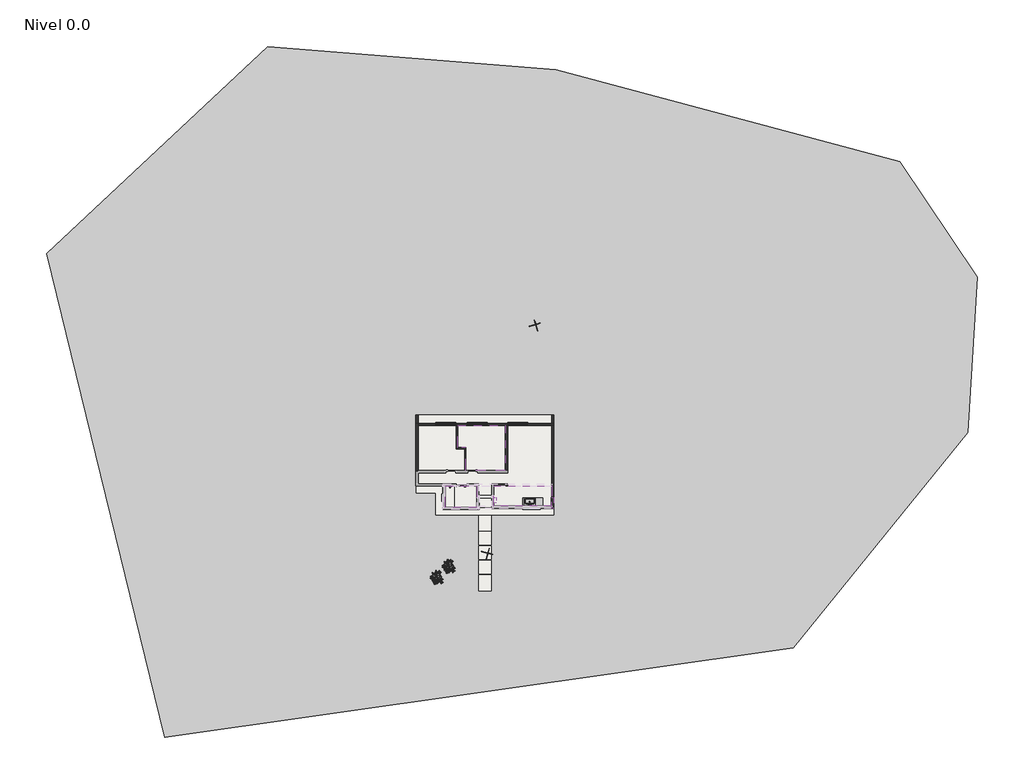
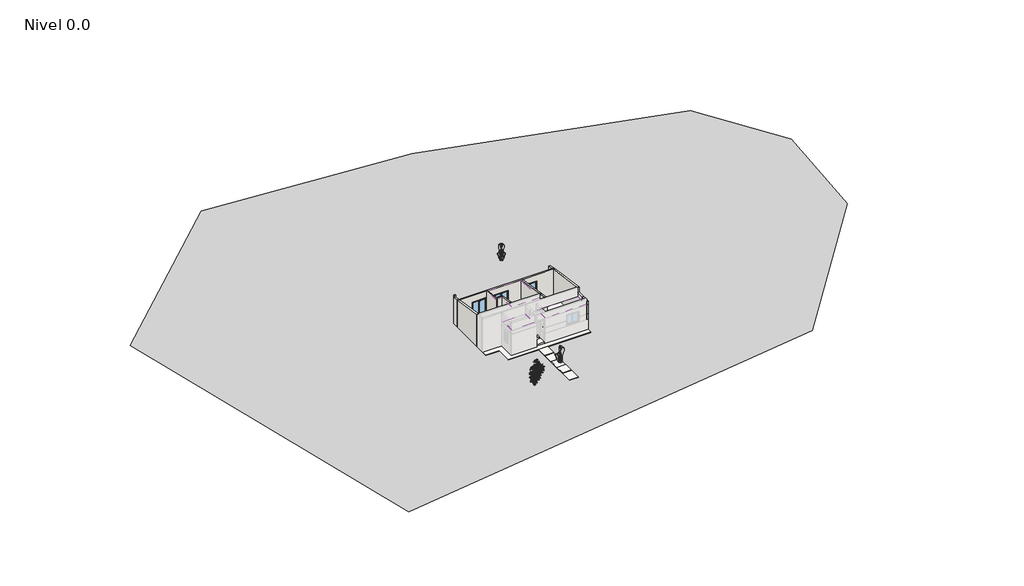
# One storey, part 2 of 2: 14 walls, 7 proxies, 6 slabs, 6 windows, 3 coverings, 2 flow terminals, 2 furniture elements, 2 geographic elements.
"""IFC4 building model written with IfcOpenShell, lengths in millimetres."""

from ifc_helpers import new_model, si_unit, frame, origin, place, context, project, spatial, polyline, outline, extrude, faceted_brep, triangles, transform, mapped, element, save
from components import people_01_multiple_views_persona_01_vistas_multiples_3530_4a2755cf, flow_terminal_b83d6339, m_sink_kitchen_single_760_x_535mm_74321b3d, furniture_f16aef51, m_counter_top_w_sink_d17fd10d, bamboo_enscape_assetdefinition_bamboo_5_6e08fe5f, window_a6007829, pv1_efd1b192

model = new_model("IFC4")

# Units and contexts
model_context = context("Model", 3, world=origin())
ifc_project = project(units=[si_unit("LENGTHUNIT", "METRE", prefix="MILLI")], contexts=[model_context])

# Site, building, storey
site = spatial("IfcSite", under=ifc_project)
building = spatial("IfcBuilding", under=site)
storey = spatial("IfcBuildingStorey", under=building, Name="Nivel 0.0", Elevation=0.0)

# Proxies
placement = place(None, origin())
element("IfcBuildingElementProxy", 1, Name="Building Element Proxy", at=placement, inside=storey, context=model_context, shape_type="Tessellation", body=[
    triangles([(-19674.3339844, 29872.3603455, -250.0000019), (25881.25047, 21582.8779541, -250.0000019), (30779.1770874, 2036.0069744, -250.0000019), (-21424.1946167, -17154.7459167, -250.0000019), (1065.6719439, 28209.1665161, -250.0000019), (31467.8652832, 13232.2760376, -250.0000019), (18194.9312622, -13492.9566376, -250.0000019), (-27094.4717651, -19950.0590149, -250.0000019), (-35614.2610291, 14936.2336578, -250.0000019)], [[8, 4, 9], [4, 8, 7], [1, 9, 4], [4, 5, 1], [7, 3, 2], [7, 2, 5], [2, 3, 6], [7, 5, 4]], closed=False),
])
element("IfcBuildingElementProxy", 2, Name="Building Element Proxy", at=placement, inside=storey, context=model_context, shape_type="Tessellation", body=[
    triangles([(-8850.4684982, -1659.8934494, -100.0000008), (-3401.8967125, -1659.8934494, -100.0000008), (-3421.4077309, 2538.120076, -100.0000008), (-8850.4684982, 2538.120076, -100.0000008), (799.5316481, -1669.6655273, -100.0000008), (799.5316481, 2538.120076, -100.0000008)], [[4, 1, 3], [3, 1, 2], [2, 6, 3], [2, 5, 6], [5, 2, 1]], closed=False),
])
element("IfcBuildingElementProxy", 3, Name="Building Element Proxy", at=placement, inside=storey, context=model_context, shape_type="Tessellation", body=[
    triangles([(779.0860937, -3263.3801674, -100.0000008), (799.5316481, -1690.8667042, -100.0000008), (-3401.8967125, -1658.8933651, -100.0000008), (-3374.1844505, -3228.7064117, -100.0000008), (-4452.3965446, -3265.446611, -100.0000008), (-4432.6800156, -1666.787796, -100.0000008), (-4452.3965446, -1658.8933651, -100.0000008)], [[7, 5, 6], [6, 5, 4], [7, 6, 3], [4, 1, 2], [1, 4, 5], [2, 3, 4], [4, 3, 6]], closed=False),
])
element("IfcBuildingElementProxy", 4, Name="Building Element Proxy", at=placement, inside=storey, context=model_context, shape_type="Tessellation", body=[
    triangles([(-6902.3967087, -3362.879908, -100.0000008), (-6902.3967087, -1659.8934494, -100.0000008), (-4602.3966911, -1658.8933651, -100.0000008), (-4602.3966911, -3362.879908, -100.0000008)], [[2, 1, 4], [4, 3, 2]], closed=False),
])
people_01_multiple_views_persona_01_vistas_multiples_3530_shape = people_01_multiple_views_persona_01_vistas_multiples_3530_4a2755cf(model_context)
element("IfcBuildingElementProxy", 5, Name="People_01_Multiple_views_persona_01_Vistas_multiples_3530 : People_01_Multiple_views_persona_01_Vistas_multiples_3530", ObjectType="People_01_Multiple_views_persona_01_Vistas_multiples_3530 : People_01_Multiple_views_persona_01_Vistas_multiples_3530", at=placement, inside=storey, context=model_context, shape_type="MappedRepresentation", body=[
    mapped(people_01_multiple_views_persona_01_vistas_multiples_3530_shape, transform((-359.6740839, 9826.7475097, -240.1879487), x_axis=(0.9612616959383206, 0.27563735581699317, 0.0), y_axis=(-0.27563735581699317, 0.9612616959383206, 0.0), z_axis=(0.0, 0.0, 1.0))),
])
element("IfcBuildingElementProxy", 6, Name="People_01_Multiple_views_persona_01_Vistas_multiples_3530 : People_01_Multiple_views_persona_01_Vistas_multiples_3530", ObjectType="People_01_Multiple_views_persona_01_Vistas_multiples_3530 : People_01_Multiple_views_persona_01_Vistas_multiples_3530", at=placement, inside=storey, context=model_context, shape_type="MappedRepresentation", body=[
    mapped(people_01_multiple_views_persona_01_vistas_multiples_3530_shape, transform((-3810.0993088, -6666.0666058, -175.816385), x_axis=(0.9659258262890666, -0.25881904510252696, 0.0), y_axis=(0.25881904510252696, 0.9659258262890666, 0.0), z_axis=(0.0, 0.0, 1.0))),
])
element("IfcBuildingElementProxy", 7, Name="Slab Edge", ObjectType="Slab Edge", at=placement, inside=storey, context=model_context, shape_type="Brep", body=[
    faceted_brep([(-8953.085471, 2649.2146735, -175.816385), (-8953.085471, 2649.2146735, -475.816385), (-8953.085471, -1717.0487, -475.816385), (-8953.085471, -1717.0487, -175.816385), (-8353.085471, 2049.2146735, -175.816385), (-8353.085471, -1117.0487, -175.816385), (-8653.085471, 2349.2146735, -475.816385), (-8653.085471, -1417.0487, -475.816385), (894.914529, 2649.2146735, -175.816385), (894.914529, 2649.2146735, -475.816385), (294.914529, 2049.2146735, -175.816385), (594.914529, 2349.2146735, -475.816385), (894.914529, -3375.7853265, -175.816385), (894.914529, -3375.7853265, -475.816385), (294.914529, -2775.7853265, -175.816385), (594.914529, -3075.7853265, -475.816385), (-4481.0136856, -3375.7853265, -175.816385), (-4481.0136856, -3375.7853265, -475.816385), (-5081.0136856, -2775.7853265, -175.816385), (-4781.0136856, -3075.7853265, -475.816385), (-4481.0136856, -3480.7853265, -175.816385), (-4481.0136856, -3480.7853265, -475.816385), (-5081.0136856, -2880.7853265, -175.816385), (-4781.0136856, -3180.7853265, -475.816385), (-7016.0136856, -3480.7853265, -175.816385), (-7016.0136856, -3480.7853265, -475.816385), (-6416.0136856, -2880.7853265, -175.816385), (-6716.0136856, -3180.7853265, -475.816385), (-7016.0136856, -1717.0487, -175.816385), (-7016.0136856, -1717.0487, -475.816385), (-6416.0136856, -1117.0487, -175.816385), (-6716.0136856, -1417.0487, -475.816385)], [[[0, 1, 2, 3]], [[4, 0, 3, 5]], [[6, 4, 5, 7]], [[1, 6, 7, 2]], [[8, 9, 1, 0]], [[10, 8, 0, 4]], [[11, 10, 4, 6]], [[9, 11, 6, 1]], [[12, 13, 9, 8]], [[14, 12, 8, 10]], [[15, 14, 10, 11]], [[13, 15, 11, 9]], [[16, 17, 13, 12]], [[18, 16, 12, 14]], [[19, 18, 14, 15]], [[17, 19, 15, 13]], [[20, 21, 17, 16]], [[22, 20, 16, 18]], [[23, 22, 18, 19]], [[21, 23, 19, 17]], [[24, 25, 21, 20]], [[26, 24, 20, 22]], [[27, 26, 22, 23]], [[25, 27, 23, 21]], [[28, 29, 25, 24]], [[30, 28, 24, 26]], [[31, 30, 26, 27]], [[29, 31, 27, 25]], [[3, 2, 29, 28]], [[5, 3, 28, 30]], [[7, 5, 30, 31]], [[2, 7, 31, 29]]]),
])

# Coverings
element("IfcCovering", 8, ObjectType="1282-Aplicado de yeso", at=placement, inside=storey, context=model_context, shape_type="SweptSolid", body=[
    extrude(outline(polyline([(790.914529, -1826.7987), (790.914529, -3262.7853265), (-3392.5136856, -3262.7853265), (-3392.5136856, -1826.7987), (790.914529, -1826.7987)])), frame((0.0, 0.0, 2450.0), z_axis=(0.0, 0.0, 1.0), x_axis=(1.0, 0.0, 0.0)), (0.0, 0.0, 1.0), 20.0),
])
element("IfcCovering", 9, ObjectType="1282-Aplicado de yeso", at=placement, inside=storey, context=model_context, shape_type="SweptSolid", body=[
    extrude(outline(polyline([(-4603.0136856, -3363.2853265), (-6894.0136856, -3363.2853265), (-6894.0136856, -1816.0487), (-4603.0136856, -1816.0487), (-4603.0136856, -3363.2853265)])), frame((0.0, 0.0, 2450.0), z_axis=(0.0, 0.0, 1.0), x_axis=(1.0, 0.0, 0.0)), (0.0, 0.0, 1.0), 20.0),
])
element("IfcCovering", 10, ObjectType="1282-Aplicado de yeso", at=placement, inside=storey, context=model_context, shape_type="Brep", body=[
    faceted_brep([(-5389.835595, 945.964389, 3058.7991933), (-5389.835595, -704.9721748, 3306.4396778), (-2543.2184884, -704.9721748, 3306.4396778), (-2543.2184884, 2553.7146735, 2817.6366506), (-5987.335595, 2553.7146735, 2817.6366506), (-5987.335595, 945.964389, 3058.7991933), (-5389.835595, 945.964389, 3038.5754448), (-5987.335595, 945.964389, 3038.5754448), (-5987.335595, 2553.7146735, 2797.4129022), (-2543.2184884, 2553.7146735, 2797.4129022), (-2543.2184884, -704.9721748, 3286.2159294), (-5389.835595, -704.9721748, 3286.2159294)], [[[0, 1, 2, 3, 4, 5]], [[6, 7, 8, 9, 10, 11]], [[1, 0, 6, 11]], [[2, 1, 11, 10]], [[3, 2, 10, 9]], [[4, 3, 9, 8]], [[5, 4, 8, 7]], [[0, 5, 7, 6]]]),
])

# Flow terminals
flow_terminal_shape = flow_terminal_b83d6339(model_context)
element("IfcFlowTerminal", 11, ObjectType="Cdo Ducha : Cdo Ducha", at=placement, inside=storey, context=model_context, shape_type="MappedRepresentation", body=[
    mapped(flow_terminal_shape, transform((-6536.0136856, -1773.0487, 0.0), x_axis=(-1.0, 0.0, 0.0), y_axis=(0.0, -1.0, 0.0), z_axis=(0.0, 0.0, 1.0))),
])
m_sink_kitchen_single_760_x_535mm_shape = m_sink_kitchen_single_760_x_535mm_74321b3d(model_context)
element("IfcFlowTerminal", 12, ObjectType="M_Sink Kitchen-Single : 760 x 535mm", at=placement, inside=storey, context=model_context, shape_type="MappedRepresentation", body=[
    mapped(m_sink_kitchen_single_760_x_535mm_shape, transform((-779.7782435, -2951.3399254, 0.0), x_axis=(-1.0, 0.0, 0.0), y_axis=(0.0, -1.0, 0.0), z_axis=(0.0, 0.0, 1.0))),
])

# Furniture
furniture_shape = furniture_f16aef51(model_context)
element("IfcFurniture", 13, ObjectType="CALEFON : EH-Esquentador a Gáz", at=placement, inside=storey, context=model_context, shape_type="MappedRepresentation", body=[
    mapped(furniture_shape, transform((-3394.0136856, -2852.9930723, 1200.0), x_axis=(0.0, -1.0, 0.0), y_axis=(1.0, 0.0, 0.0), z_axis=(0.0, 0.0, 1.0))),
])
m_counter_top_w_sink_shape = m_counter_top_w_sink_d17fd10d(model_context)
element("IfcFurniture", 14, ObjectType="M_Counter Top w Sink : Mesada 1.45m", at=placement, inside=storey, context=model_context, shape_type="MappedRepresentation", body=[
    mapped(m_counter_top_w_sink_shape, transform((-1042.4927432, -3264.2853265, 0.0), x_axis=(-1.0, 0.0, 0.0), y_axis=(0.0, -1.0, 0.0), z_axis=(0.0, 0.0, 1.0))),
])

# Geographic elements
bamboo_enscape_assetdefinition_bamboo_5_shape = bamboo_enscape_assetdefinition_bamboo_5_6e08fe5f(model_context)
element("IfcGeographicElement", 15, ObjectType="Bamboo : Enscape AssetDefinition - Bamboo 5", at=placement, inside=storey, context=model_context, shape_type="MappedRepresentation", body=[
    mapped(bamboo_enscape_assetdefinition_bamboo_5_shape, transform((-7476.0136856, -8440.7853265, -400.0), x_axis=(1.0, 0.0, 0.0), y_axis=(0.0, 1.0, 0.0), z_axis=(0.0, 0.0, 1.0))),
])
element("IfcGeographicElement", 16, ObjectType="Bamboo : Enscape AssetDefinition - Bamboo 5", at=placement, inside=storey, context=model_context, shape_type="MappedRepresentation", body=[
    mapped(bamboo_enscape_assetdefinition_bamboo_5_shape, transform((-6621.0136856, -7640.7853265, -400.0), x_axis=(1.0, 0.0, 0.0), y_axis=(0.0, 1.0, 0.0), z_axis=(0.0, 0.0, 1.0))),
])

# Slabs
element("IfcSlab", 17, ObjectType="Vereda de acceso", at=placement, inside=storey, context=model_context, shape_type="SweptSolid", body=[
    extrude(outline(polyline([(-3552.8965789, -3956.5789295), (-3552.8965789, -5038.2848008), (-4452.3965789, -5038.2848008), (-4452.3965789, -3956.5789295), (-3552.8965789, -3956.5789295)])), frame((0.0, 0.0, -295.816385), z_axis=(0.0, 0.0, 1.0), x_axis=(1.0, 0.0, 0.0)), (0.0, 0.0, 1.0), 120.0),
    extrude(outline(polyline([(-3552.8965789, -5080.8962998), (-3552.8965789, -6082.6021711), (-4452.3965789, -6082.6021711), (-4452.3965789, -5080.8962998), (-3552.8965789, -5080.8962998)])), frame((0.0, 0.0, -295.816385), z_axis=(0.0, 0.0, 1.0), x_axis=(1.0, 0.0, 0.0)), (0.0, 0.0, 1.0), 120.0),
    extrude(outline(polyline([(-3552.8965789, -6125.2136701), (-3552.8965789, -7126.9195414), (-4452.3965789, -7126.9195414), (-4452.3965789, -6125.2136701), (-3552.8965789, -6125.2136701)])), frame((0.0, 0.0, -295.816385), z_axis=(0.0, 0.0, 1.0), x_axis=(1.0, 0.0, 0.0)), (0.0, 0.0, 1.0), 120.0),
    extrude(outline(polyline([(-3552.8965789, -7169.5310404), (-3552.8965789, -8171.2369118), (-4452.3965789, -8171.2369118), (-4452.3965789, -7169.5310404), (-3552.8965789, -7169.5310404)])), frame((0.0, 0.0, -295.816385), z_axis=(0.0, 0.0, 1.0), x_axis=(1.0, 0.0, 0.0)), (0.0, 0.0, 1.0), 120.0),
    extrude(outline(polyline([(-3552.8965789, -8213.8484108), (-3552.8965789, -9375.5542821), (-4452.3965789, -9375.5542821), (-4452.3965789, -8213.8484108), (-3552.8965789, -8213.8484108)])), frame((0.0, 0.0, -295.816385), z_axis=(0.0, 0.0, 1.0), x_axis=(1.0, 0.0, 0.0)), (0.0, 0.0, 1.0), 120.0),
])
element("IfcSlab", 18, ObjectType="Platea de fundación", at=placement, inside=storey, context=model_context, shape_type="Brep", body=[
    faceted_brep([(-8953.085471, -1717.0487, -175.0), (-8953.085471, -1664.5487, -175.0), (-8953.085471, -782.2221748, -175.0), (-8953.085471, 2649.2146735, -175.0), (-8842.585471, 2649.2146735, -175.0), (894.914529, 2649.2146735, -175.0), (894.914529, 2538.7146735, -175.0), (894.914529, -2651.7853265, -175.0), (894.914529, -3265.2853265, -175.0), (894.914529, -3375.7853265, -175.0), (-3548.0136856, -3375.7853265, -175.0), (-4439.0136856, -3375.7853265, -175.0), (-4481.0136856, -3375.7853265, -175.0), (-4481.0136856, -3480.7853265, -175.0), (-7016.0136856, -3480.7853265, -175.0), (-7016.0136856, -3358.7853265, -175.0), (-7016.0136856, -1816.0487, -175.0), (-7016.0136856, -1717.0487, -175.0), (-6196.1040625, -3363.5353265, -175.0), (-6196.1040625, -3358.7853265, -175.0), (-6196.1040625, -1816.0487, -175.0), (-6894.0136856, -1816.0487, -175.0), (-6898.7636856, -1816.0487, -175.0), (-6898.7636856, -3358.7853265, -175.0), (-6898.7636856, -3363.5353265, -175.0), (-8953.085471, -1717.0487, -25.0), (-7016.0136856, -1717.0487, -25.0), (-7016.0136856, -1816.0487, -25.0), (-7016.0136856, -3358.7853265, -25.0), (-7016.0136856, -3480.7853265, -25.0), (-4481.0136856, -3480.7853265, -25.0), (-4481.0136856, -3375.7853265, -25.0), (-4439.0136856, -3375.7853265, -25.0), (-3548.0136856, -3375.7853265, -25.0), (894.914529, -3375.7853265, -25.0), (894.914529, -3265.2853265, -25.0), (894.914529, -2651.7853265, -25.0), (894.914529, 2538.7146735, -25.0), (894.914529, 2649.2146735, -25.0), (-8842.585471, 2649.2146735, -25.0), (-8953.085471, 2649.2146735, -25.0), (-8953.085471, -782.2221748, -25.0), (-8953.085471, -1664.5487, -25.0), (-6196.1040625, -3363.5353265, -25.0), (-6898.7636856, -3363.5353265, -25.0), (-6898.7636856, -3358.7853265, -25.0), (-6898.7636856, -1816.0487, -25.0), (-6196.1040625, -1816.0487, -25.0), (-6196.1040625, -3358.7853265, -25.0), (-6196.1040625, -3363.5353265, -75.816385), (-6196.1040625, -3363.5353265, -50.816385), (-6898.7636856, -3363.5353265, -50.816385), (-6898.7636856, -3363.5353265, -75.816385)], [[[0, 1, 2, 3, 4, 5, 6, 7, 8, 9, 10, 11, 12, 13, 14, 15, 16, 17], [18, 19, 20, 21, 22, 23, 24]], [[25, 26, 27, 28, 29, 30, 31, 32, 33, 34, 35, 36, 37, 38, 39, 40, 41, 42], [43, 44, 45, 46, 47, 48]], [[3, 2, 1, 0, 25, 42, 41, 40]], [[5, 4, 3, 40, 39, 38]], [[9, 8, 7, 6, 5, 38, 37, 36, 35, 34]], [[12, 11, 10, 9, 34, 33, 32, 31]], [[13, 12, 31, 30]], [[14, 13, 30, 29]], [[17, 16, 15, 14, 29, 28, 27, 26]], [[0, 17, 26, 25]], [[20, 19, 18, 49, 50, 43, 48, 47]], [[22, 21, 20, 47, 46]], [[24, 23, 22, 46, 45, 44, 51, 52]], [[18, 24, 52, 51, 44, 43, 50, 49]]]),
])
element("IfcSlab", 19, ObjectType="Veredín perimetral", at=placement, inside=storey, context=model_context, shape_type="SweptSolid", body=[
    extrude(outline(polyline([(-7030.5136856, -1794.7987), (-7030.5136856, -3495.2853265), (-4466.5136856, -3495.2853265), (-4466.5136856, -3396.2853265), (922.914529, -3396.2853265), (922.914529, -3914.2853258), (-7558.5136856, -3914.2853258), (-7558.5136856, -2310.2987), (-8973.585471, -2310.2987), (-8973.585471, -1794.7987), (-7030.5136856, -1794.7987)])), frame((0.0, 0.0, -295.0), z_axis=(0.0, 0.0, 1.0), x_axis=(1.0, 0.0, 0.0)), (0.0, 0.0, 1.0), 120.0),
    extrude(outline(polyline([(922.914529, 3320.8520792), (922.914529, 2669.7146735), (-8973.585471, 2669.7146735), (-8973.585471, 3320.8520792), (922.914529, 3320.8520792)])), frame((0.0, 0.0, -295.0), z_axis=(0.0, 0.0, 1.0), x_axis=(1.0, 0.0, 0.0)), (0.0, 0.0, 1.0), 120.0),
])
element("IfcSlab", 20, ObjectType="Piso Cerámico", at=placement, inside=storey, context=model_context, shape_type="SweptSolid", body=[
    extrude(outline(polyline([(-3422.7636856, -3258.0353265), (-3422.7636856, -1826.7987), (-2388.7184884, -1826.7987), (-2388.7184884, -1656.7987), (-3555.2636856, -1656.7987), (-3555.2636856, -2519.4025284), (-3567.5136856, -2519.4025284), (-3567.5136856, -2665.9025284), (-4417.5136856, -2665.9025284), (-4417.5136856, -2519.4025284), (-4438.5136856, -2519.4025284), (-4438.5136856, -1679.5487), (-5319.8471251, -1679.5487), (-5319.8471251, -1816.0487), (-4596.1040625, -1816.0487), (-4596.1040625, -3363.5353265), (-6196.1040625, -3363.5353265), (-6196.1040625, -1842.7987001), (-6099.8471251, -1842.7987001), (-6099.8471251, -1679.5487), (-8842.585471, -1679.5487), (-8842.585471, -859.4721748), (-6887.085595, -859.4721748), (-6887.085595, -704.9721748), (-8842.585471, -704.9721748), (-8842.585471, 2537.7146735), (-6081.835595, 2537.7146735), (-6081.835595, 851.464389), (-5484.335595, 851.464389), (-5484.335595, -704.9721748), (-6107.085595, -704.9721748), (-6107.085595, -859.4721748), (-5287.085595, -859.4721748), (-5287.085595, -704.9721748), (-5389.835595, -704.9721748), (-5389.835595, 945.964389), (-5987.335595, 945.964389), (-5987.335595, 2537.7146735), (-2543.2184884, 2537.7146735), (-2543.2184884, -704.9721748), (-4507.085595, -704.9721748), (-4507.085595, -859.4721748), (-2388.7184884, -859.4721748), (-2388.7184884, 2537.7146735), (784.414529, 2537.7146735), (784.414529, -3258.0353265), (-3422.7636856, -3258.0353265)])), frame((0.0, 0.0, -25.0), z_axis=(0.0, 0.0, 1.0), x_axis=(1.0, 0.0, 0.0)), (0.0, 0.0, 1.0), 25.0),
])
element("IfcSlab", 21, ObjectType="Platea de fundación, receptaculo baño", at=placement, inside=storey, context=model_context, shape_type="SweptSolid", body=[
    extrude(outline(polyline([(-6196.1040625, -3363.5353265), (-6898.7636856, -3363.5353265), (-6898.7636856, -1816.0487), (-6196.1040625, -1816.0487), (-6196.1040625, -3363.5353265)])), frame((0.0, 0.0, -175.816385), z_axis=(0.0, 0.0, 1.0), x_axis=(1.0, 0.0, 0.0)), (0.0, 0.0, 1.0), 100.0),
])
element("IfcSlab", 22, ObjectType="Piso Cerámico", at=placement, inside=storey, context=model_context, shape_type="Brep", body=[
    faceted_brep([(-6196.1040625, -3363.5353265, -75.816385), (-6898.7636856, -3363.5353265, -75.816385), (-6898.7636856, -3358.7853265, -75.816385), (-6898.7636856, -1816.0487, -75.816385), (-6196.1040625, -1816.0487, -75.816385), (-6196.1040625, -3358.7853265, -75.816385), (-6196.1040625, -3363.5353265, -50.816385), (-6196.1040625, -3358.7853265, -50.816385), (-6196.1040625, -1816.0487, -50.816385), (-6898.7636856, -1816.0487, -50.816385), (-6898.7636856, -3358.7853265, -50.816385), (-6898.7636856, -3363.5353265, -50.816385)], [[[0, 1, 2, 3, 4, 5]], [[6, 7, 8, 9, 10, 11]], [[1, 0, 6, 11]], [[3, 2, 1, 11, 10, 9]], [[4, 3, 9, 8]], [[0, 5, 4, 8, 7, 6]]]),
])

# Walls
element("IfcWall", 23, ObjectType="Pe-NW-001", at=placement, inside=storey, context=model_context, shape_type="Brep", body=[
    faceted_brep([(-8995.585471, 3320.8520792, -175.816385), (-8995.585471, 2691.7146735, -175.816385), (-8995.585471, 2691.7146735, -175.0), (-8995.585471, 2691.7146735, 2791.0417259), (-8995.585471, 3304.1020792, 2699.183615), (-8995.585471, 3304.1020792, 2924.183615), (-8995.585471, 3320.8520792, 2924.183615), (-8843.085471, 3320.8520792, -175.816385), (-8843.085471, 3320.8520792, 2924.183615), (-8843.085471, 3304.1020792, 2924.183615), (-8843.085471, 3304.1020792, 2699.183615), (-8843.085471, 2691.7146735, 2791.0417259), (-8843.085471, 2691.7146735, -175.816385)], [[[0, 1, 2, 3, 4, 5, 6]], [[7, 8, 9, 10, 11, 12]], [[4, 3, 11, 10]], [[1, 0, 7, 12]], [[0, 6, 8, 7]], [[3, 2, 1, 12, 11]], [[6, 5, 9, 8]], [[9, 5, 4, 10]]]),
])
element("IfcWall", 24, ObjectType="Pe-NW-002", at=placement, inside=storey, context=model_context, shape_type="Brep", body=[
    faceted_brep([(937.414529, 2691.7146735, -175.0), (784.914529, 2691.7146735, -175.0), (-8842.585471, 2691.7146735, -175.0), (-8842.585471, 2691.7146735, 2791.0417259), (937.414529, 2691.7146735, 2791.0417259), (937.414529, 2691.7146735, 2782.1012413), (-6149.6368868, 2691.7146735, 2129.183615), (-7589.6368868, 2691.7146735, 2129.183615), (-7589.6368868, 2691.7146735, -0.816385), (-6149.6368868, 2691.7146735, -0.816385), (-3874.085471, 2691.7146735, -0.816385), (-3874.085471, 2691.7146735, 2129.183615), (-5314.085471, 2691.7146735, 2129.183615), (-5314.085471, 2691.7146735, -0.816385), (-932.085595, 2691.7146735, -0.816385), (-932.085595, 2691.7146735, 2129.183615), (-2372.085595, 2691.7146735, 2129.183615), (-2372.085595, 2691.7146735, -0.816385), (937.414529, 2538.7146735, 2813.9917259), (784.414529, 2538.7146735, 2813.9917259), (-2388.7184884, 2538.7146735, 2813.9917259), (-2543.2184884, 2538.7146735, 2813.9917259), (-5987.335595, 2538.7146735, 2813.9917259), (-6081.835595, 2538.7146735, 2813.9917259), (-8842.585471, 2538.7146735, 2813.9917259), (-8842.585471, 2538.7146735, -25.0), (784.414529, 2538.7146735, -25.0), (894.914529, 2538.7146735, -25.0), (894.914529, 2538.7146735, -175.0), (937.414529, 2538.7146735, -175.0), (-7589.6368868, 2538.7146735, 2129.183615), (-6149.6368868, 2538.7146735, 2129.183615), (-6149.6368868, 2538.7146735, -0.816385), (-7589.6368868, 2538.7146735, -0.816385), (-3874.085471, 2538.7146735, 2129.183615), (-3874.085471, 2538.7146735, -0.816385), (-5314.085471, 2538.7146735, -0.816385), (-5314.085471, 2538.7146735, 2129.183615), (-932.085595, 2538.7146735, 2129.183615), (-932.085595, 2538.7146735, -0.816385), (-2372.085595, 2538.7146735, -0.816385), (-2372.085595, 2538.7146735, 2129.183615), (894.914529, 2649.2146735, -175.0), (-8842.585471, 2649.2146735, -175.0), (-8842.585471, 2649.2146735, -25.0), (894.914529, 2649.2146735, -25.0)], [[[0, 1, 2, 3, 4, 5], [6, 7, 8, 9], [10, 11, 12, 13], [14, 15, 16, 17]], [[18, 19, 20, 21, 22, 23, 24, 25, 26, 27, 28, 29], [30, 31, 32, 33], [34, 35, 36, 37], [38, 39, 40, 41]], [[2, 1, 0, 29, 28, 42, 43]], [[8, 33, 32, 9]], [[35, 10, 13, 36]], [[39, 14, 17, 40]], [[4, 3, 24, 23, 22, 21, 20, 19, 18]], [[9, 32, 31, 6]], [[30, 7, 6, 31]], [[7, 30, 33, 8]], [[10, 35, 34, 11]], [[11, 34, 37, 12]], [[12, 37, 36, 13]], [[14, 39, 38, 15]], [[15, 38, 41, 16]], [[16, 41, 40, 17]], [[3, 2, 43, 44, 25, 24]], [[44, 45, 27, 26, 25]], [[42, 45, 44, 43]], [[45, 42, 28, 27]], [[29, 0, 5, 4, 18]]]),
])
element("IfcWall", 25, ObjectType="Pi-NW-050", at=placement, inside=storey, context=model_context, shape_type="Brep", body=[
    faceted_brep([(-6081.835595, 2538.7146735, 0.0), (-6081.835595, 851.464389, 0.0), (-6081.835595, 851.464389, 3067.0792686), (-6081.835595, 2538.7146735, 2813.9917259), (-5987.335595, 2538.7146735, 0.0), (-5987.335595, 2538.7146735, 2813.9917259), (-5987.335595, 945.964389, 3052.9042686), (-5987.335595, 851.464389, 3067.0792686), (-5987.335595, 851.464389, 0.0), (-5987.335595, 945.964389, 0.0)], [[[0, 1, 2, 3]], [[4, 5, 6, 7, 8, 9]], [[1, 0, 4, 9, 8]], [[3, 2, 7, 6, 5]], [[2, 1, 8, 7]], [[0, 3, 5, 4]]]),
])
element("IfcWall", 26, ObjectType="Pi-NW-050", at=placement, inside=storey, context=model_context, shape_type="Brep", body=[
    faceted_brep([(-5987.335595, 851.464389, 0.0), (-5484.335595, 851.464389, 0.0), (-5389.835595, 851.464389, 0.0), (-5389.835595, 851.464389, 3067.0792686), (-5484.335595, 851.464389, 3067.0792686), (-5987.335595, 851.464389, 3067.0792686), (-5987.335595, 945.964389, 0.0), (-5987.335595, 945.964389, 3052.9042686), (-5389.835595, 945.964389, 3052.9042686), (-5389.835595, 945.964389, 0.0)], [[[0, 1, 2, 3, 4, 5]], [[6, 7, 8, 9]], [[2, 1, 0, 6, 9]], [[5, 4, 3, 8, 7]], [[3, 2, 9, 8]], [[0, 5, 7, 6]]]),
])
element("IfcWall", 27, ObjectType="Pi-NW-050", at=placement, inside=storey, context=model_context, shape_type="SweptSolid", body=[
    extrude(outline(polyline([(851.464389, 0.0), (-704.9721748, 0.0), (-704.9721748, 3300.5447531), (851.464389, 3067.0792686), (851.464389, 0.0)])), frame((-5484.335595, 0.0, 0.0), z_axis=(1.0, 0.0, 0.0), x_axis=(0.0, 1.0, 0.0)), (0.0, 0.0, 1.0), 94.5),
])
element("IfcWall", 28, ObjectType="Pi-NW-054", at=placement, inside=storey, context=model_context, shape_type="SweptSolid", body=[
    extrude(outline(polyline([(2538.7146735, 2813.9917259), (2538.7146735, 0.0), (-704.9721748, 0.0), (-704.9721748, 2100.0), (-1652.1000845, 2100.0), (-1652.1000845, 0.0), (-1679.5487, 0.0), (-1679.5487, 3446.7312319), (2538.7146735, 2813.9917259)])), frame((-2543.2184884, 0.0, 0.0), z_axis=(1.0, 0.0, 0.0), x_axis=(0.0, 1.0, 0.0)), (0.0, 0.0, 1.0), 154.5),
])
element("IfcWall", 29, ObjectType="Pe-NW-002", at=placement, inside=storey, context=model_context, shape_type="Brep", body=[
    faceted_brep([(937.414529, -2651.7853265, -175.0), (937.414529, 2538.7146735, -175.0), (937.414529, 2538.7146735, 2813.9917259), (937.414529, -1832.0487, 3469.6062319), (937.414529, -1832.0487, 2925.0), (937.414529, -2651.7853265, 2925.0), (937.414529, -2651.7853265, 2525.0), (937.414529, -2651.7853265, 1525.0), (937.414529, -2651.7853265, 925.0), (784.414529, -2651.7853265, 2925.0), (784.414529, -1832.0487, 2925.0), (784.414529, -1832.0487, 3469.6062319), (784.414529, -1679.5487, 3446.7312319), (784.414529, 2538.7146735, 2813.9917259), (784.414529, 2538.7146735, -25.0), (784.414529, -2651.7853265, -25.0), (784.414529, -2651.7853265, 925.0), (784.414529, -2651.7853265, 1525.0), (784.414529, -2651.7853265, 2525.0), (894.914529, 2538.7146735, -25.0), (894.914529, -2651.7853265, -25.0), (894.914529, 2538.7146735, -175.0), (894.914529, -2651.7853265, -175.0), (784.914529, -2651.7853265, 2925.0)], [[[0, 1, 2, 3, 4, 5, 6, 7, 8]], [[9, 10, 11, 12, 13, 14, 15, 16, 17, 18]], [[19, 20, 15, 14]], [[20, 19, 21, 22]], [[1, 0, 22, 21]], [[5, 23, 9, 18, 17, 16, 15, 20, 22, 0, 8, 7, 6]], [[9, 23, 5, 4, 10]], [[10, 4, 3, 11]], [[3, 2, 13, 12, 11]], [[13, 2, 1, 21, 19, 14]]]),
])
element("IfcWall", 30, ObjectType="Pe-NW-003", at=placement, inside=storey, context=model_context, shape_type="Brep", body=[
    faceted_brep([(937.414529, -2651.7853265, 1525.0), (937.414529, -3418.2853265, 1525.0), (937.414529, -3418.2853265, 925.0), (937.414529, -3265.2853265, 925.0), (937.414529, -2651.7853265, 925.0), (772.914529, -2651.7853265, 1525.0), (772.914529, -2651.7853265, 925.0), (772.914529, -3253.7853265, 925.0), (772.914529, -3418.2853265, 925.0), (772.914529, -3418.2853265, 1525.0), (772.914529, -3253.7853265, 1525.0), (784.414529, -2651.7853265, 1525.0), (784.414529, -3418.2853265, 1525.0), (784.414529, -2651.7853265, 925.0)], [[[0, 1, 2, 3, 4]], [[5, 6, 7, 8, 9, 10]], [[1, 0, 11, 5, 10, 9, 12]], [[4, 3, 2, 8, 7, 6, 13]], [[0, 4, 13, 6, 5, 11]], [[2, 1, 12, 9, 8]]]),
])
element("IfcWall", 31, ObjectType="Pe-NW-002", at=placement, inside=storey, context=model_context, shape_type="Brep", body=[
    faceted_brep([(937.414529, -2651.7853265, 2525.0), (937.414529, -3418.2853265, 2525.0), (937.414529, -3418.2853265, 1525.0), (937.414529, -2651.7853265, 1525.0), (784.414529, -2651.7853265, 2525.0), (784.414529, -2651.7853265, 1525.0), (784.414529, -3265.2853265, 1525.0), (784.414529, -3418.2853265, 1525.0), (784.414529, -3418.2853265, 2525.0), (784.414529, -3265.2853265, 2525.0), (784.914529, -2651.7853265, 2525.0), (784.914529, -3418.2853265, 2525.0)], [[[0, 1, 2, 3]], [[4, 5, 6, 7, 8, 9]], [[1, 0, 10, 4, 9, 8, 11]], [[3, 2, 7, 6, 5]], [[0, 3, 5, 4, 10]], [[2, 1, 11, 8, 7]]]),
])
element("IfcWall", 32, ObjectType="Pe-NW-001", at=placement, inside=storey, context=model_context, shape_type="Brep", body=[
    faceted_brep([(937.414529, -2651.7853265, 2925.0), (937.414529, -3418.2853265, 2925.0), (937.414529, -3418.2853265, 2525.0), (937.414529, -2651.7853265, 2525.0), (784.914529, -2651.7853265, 2925.0), (784.914529, -2651.7853265, 2525.0), (784.914529, -3265.7853265, 2525.0), (784.914529, -3418.2853265, 2525.0), (784.914529, -3418.2853265, 2925.0)], [[[0, 1, 2, 3]], [[4, 5, 6, 7, 8]], [[1, 0, 4, 8]], [[3, 2, 7, 6, 5]], [[0, 3, 5, 4]], [[2, 1, 8, 7]]]),
])
element("IfcWall", 33, ObjectType="Pi-NW-053", at=placement, inside=storey, context=model_context, shape_type="SweptSolid", body=[
    extrude(outline(polyline([(-2380.9684884, -1816.0487), (-3383.5136856, -1816.0487), (-3383.5136856, -1679.5487), (-2380.9684884, -1679.5487), (-2380.9684884, -1816.0487)])), frame((0.0, 0.0, -175.0), z_axis=(0.0, 0.0, 1.0), x_axis=(1.0, 0.0, 0.0)), (0.0, 0.0, 1.0), 2652.1107105),
])
element("IfcWall", 34, ObjectType="Pe-NW-001", at=placement, inside=storey, context=model_context, shape_type="SweptSolid", body=[
    extrude(outline(polyline([(3320.8520792, 2699.183615), (3320.8520792, -175.0), (2691.7146735, -175.0), (2691.7146735, 2782.1012413), (3320.8520792, 2699.183615)])), frame((784.914529, 0.0, 0.0), z_axis=(1.0, 0.0, 0.0), x_axis=(0.0, 1.0, 0.0)), (0.0, 0.0, 1.0), 152.5),
])
element("IfcWall", 35, ObjectType="Pe-NW-002", at=placement, inside=storey, context=model_context, shape_type="Brep", body=[
    faceted_brep([(-8995.585471, 2691.7146735, -175.0), (-8995.585471, -782.2221748, -175.0), (-8995.585471, -782.2221748, 3312.1322531), (-8995.585471, 2691.7146735, 2791.0417259), (-8842.585471, 2691.7146735, 2791.0417259), (-8842.585471, 2538.7146735, 2813.9917259), (-8842.585471, -704.9721748, 3300.5447531), (-8842.585471, -782.2221748, 3312.1322531), (-8842.585471, -782.2221748, -25.0), (-8842.585471, 2538.7146735, -25.0), (-8842.585471, 2649.2146735, -25.0), (-8842.585471, 2649.2146735, -175.0), (-8842.585471, 2691.7146735, -175.0), (-8843.085471, 2691.7146735, 2791.0417259), (-8953.085471, 2649.2146735, -175.0), (-8953.085471, -782.2221748, -175.0), (-8953.085471, -782.2221748, -25.0), (-8953.085471, 2649.2146735, -25.0)], [[[0, 1, 2, 3]], [[4, 5, 6, 7, 8, 9, 10, 11, 12]], [[3, 2, 7, 6, 5, 4, 13]], [[1, 0, 12, 11, 14, 15]], [[12, 0, 3, 13, 4]], [[16, 17, 10, 9, 8]], [[14, 17, 16, 15]], [[17, 14, 11, 10]], [[7, 2, 1, 15, 16, 8]]]),
])
element("IfcWall", 36, ObjectType="Pe-NW-002", at=placement, inside=storey, context=model_context, shape_type="SweptSolid", body=[
    extrude(outline(polyline([(-175.0, 937.414529), (925.0, 937.414529), (925.0, 784.414529), (-25.0, 784.414529), (-25.0, 894.914529), (-175.0, 894.914529), (-175.0, 937.414529)])), frame((0.0, -3265.2853265, 0.0), z_axis=(0.0, 1.0, 0.0), x_axis=(0.0, 0.0, 1.0)), (0.0, 0.0, 1.0), 613.5),
])

# Windows
window_shape = window_a6007829(model_context)
element("IfcWindow", 37, ObjectType="Premarco metálico : Premarco metálico PV1", at=placement, inside=storey, context=model_context, shape_type="MappedRepresentation", body=[
    mapped(window_shape, transform((-6939.6368868, 2615.2146735, -800.816385), x_axis=(-1.0, 0.0, 0.0), y_axis=(0.0, -1.0, 0.0), z_axis=(0.0, 0.0, 1.0))),
])
element("IfcWindow", 38, ObjectType="Premarco metálico : Premarco metálico PV1", at=placement, inside=storey, context=model_context, shape_type="MappedRepresentation", body=[
    mapped(window_shape, transform((-4664.085471, 2615.2146735, -800.816385), x_axis=(-1.0, 0.0, 0.0), y_axis=(0.0, -1.0, 0.0), z_axis=(0.0, 0.0, 1.0))),
])
element("IfcWindow", 39, ObjectType="Premarco metálico : Premarco metálico PV1", at=placement, inside=storey, context=model_context, shape_type="MappedRepresentation", body=[
    mapped(window_shape, transform((-1722.085595, 2615.2146735, -800.816385), x_axis=(-1.0, 0.0, 0.0), y_axis=(0.0, -1.0, 0.0), z_axis=(0.0, 0.0, 1.0))),
])
pv1_shape = pv1_efd1b192(model_context)
element("IfcWindow", 40, ObjectType="Vtana Corrediza : PV1", at=placement, inside=storey, context=model_context, shape_type="MappedRepresentation", body=[
    mapped(pv1_shape, transform((-6864.6368868, 2615.2146735, -800.816385), x_axis=(-1.0, 0.0, 0.0), y_axis=(0.0, -1.0, 0.0), z_axis=(0.0, 0.0, 1.0))),
])
element("IfcWindow", 41, ObjectType="Vtana Corrediza : PV1", at=placement, inside=storey, context=model_context, shape_type="MappedRepresentation", body=[
    mapped(pv1_shape, transform((-4589.085471, 2615.2146735, -800.816385), x_axis=(-1.0, 0.0, 0.0), y_axis=(0.0, -1.0, 0.0), z_axis=(0.0, 0.0, 1.0))),
])
element("IfcWindow", 42, ObjectType="Vtana Corrediza : PV1", at=placement, inside=storey, context=model_context, shape_type="MappedRepresentation", body=[
    mapped(pv1_shape, transform((-1647.085595, 2615.2146735, -800.816385), x_axis=(-1.0, 0.0, 0.0), y_axis=(0.0, -1.0, 0.0), z_axis=(0.0, 0.0, 1.0))),
])

save(model, "model.ifc")
